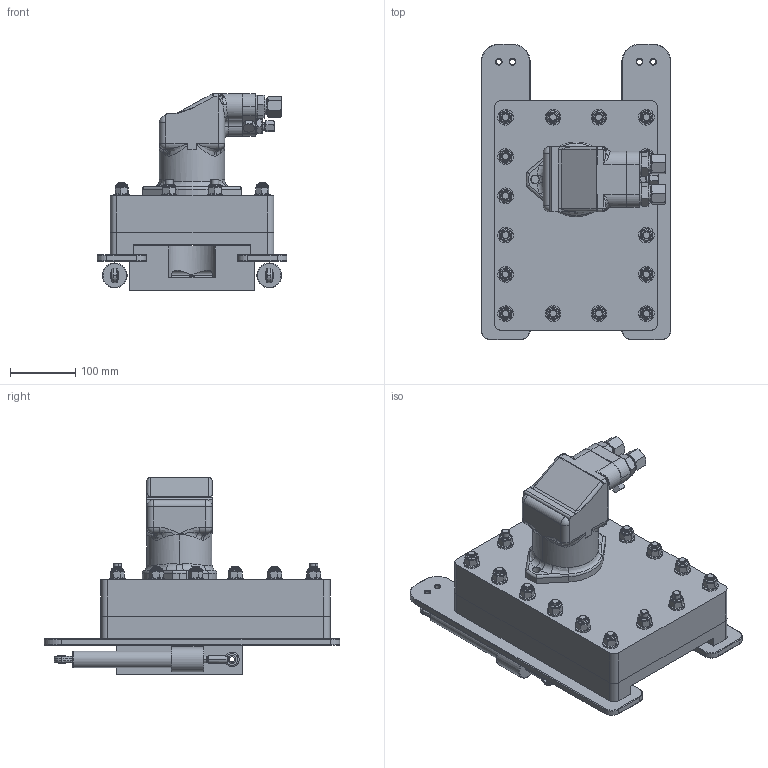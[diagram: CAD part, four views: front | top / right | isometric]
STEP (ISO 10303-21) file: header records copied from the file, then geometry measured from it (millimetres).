
FILE_DESCRIPTION (( 'STEP AP203' ), '1' );
FILE_NAME ('AZ10 ASSEMBLY.STEP', '2010-04-14T10:32:41', ( '' ), ( '' ), 'SwSTEP 2.0', 'SolidWorks 2010', '' );
FILE_SCHEMA (( 'CONFIG_CONTROL_DESIGN' ));
Products named in the file (1): AZ10 ASSEMBLY
Bounding box: 290 x 452 x 300.87 mm (x, y, z)
Surface area: 908677.7 mm2 (no closed solid volume)
Topology: 0 solids, 96 shells, 1392 faces, 4130 edges, 2505 vertices
Faces by surface type: plane 384, cylinder 340, torus 227, bspline 222, cone 213, sphere 6
Entity records: 86344 total; most frequent: CARTESIAN_POINT 52454, DIRECTION 6916, ORIENTED_EDGE 6606, EDGE_CURVE 3924, AXIS2_PLACEMENT_3D 2917, VERTEX_POINT 2505, CIRCLE 1746, EDGE_LOOP 1586
